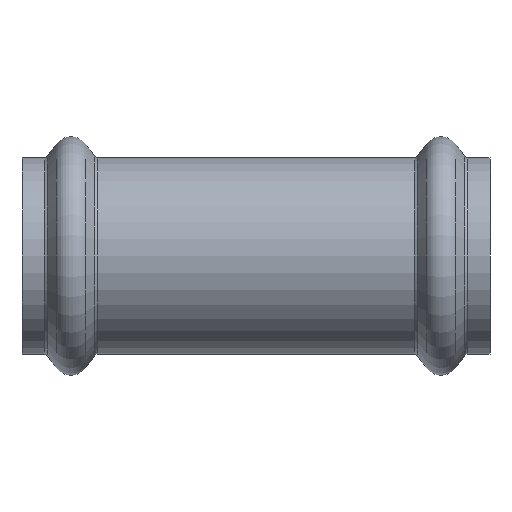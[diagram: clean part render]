
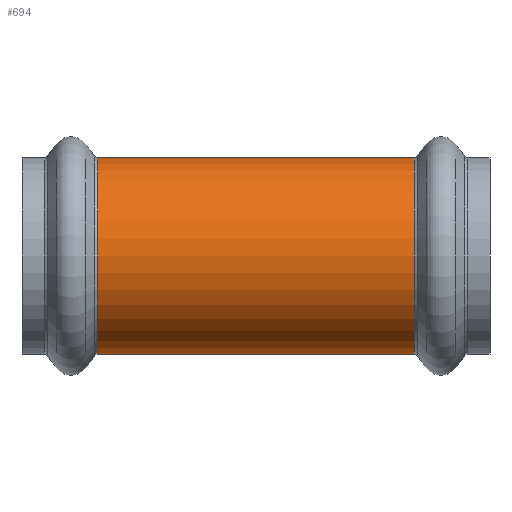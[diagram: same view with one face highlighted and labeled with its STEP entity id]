
A CAD part, front view. The second image highlights one B-rep face of the part: STEP entity #694.
In plain terms, the highlighted cylindrical face has radius 32.931 mm (diameter 65.862 mm), a full revolution.
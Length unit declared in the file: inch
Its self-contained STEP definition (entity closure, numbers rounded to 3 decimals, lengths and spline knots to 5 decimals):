
#51=CYLINDRICAL_SURFACE('',#788,1.2965);
#61=LINE('',#1256,#75);
#75=VECTOR('',#994,1.2965);
#104=FACE_OUTER_BOUND('',#133,.T.);
#133=EDGE_LOOP('',(#525,#526,#527,#528,#529,#530,#531,#532));
#192=CIRCLE('',#785,1.2965);
#193=CIRCLE('',#786,1.2965);
#194=CIRCLE('',#787,1.2965);
#195=CIRCLE('',#789,1.2965);
#196=CIRCLE('',#790,1.2965);
#197=CIRCLE('',#791,1.2965);
#278=VERTEX_POINT('',#1243);
#279=VERTEX_POINT('',#1245);
#280=VERTEX_POINT('',#1247);
#281=VERTEX_POINT('',#1251);
#282=VERTEX_POINT('',#1252);
#283=VERTEX_POINT('',#1254);
#370=EDGE_CURVE('',#279,#278,#192,.T.);
#371=EDGE_CURVE('',#280,#279,#193,.T.);
#372=EDGE_CURVE('',#278,#280,#194,.T.);
#373=EDGE_CURVE('',#281,#282,#195,.T.);
#374=EDGE_CURVE('',#283,#281,#196,.T.);
#375=EDGE_CURVE('',#283,#280,#61,.T.);
#376=EDGE_CURVE('',#282,#283,#197,.T.);
#525=ORIENTED_EDGE('',*,*,#373,.F.);
#526=ORIENTED_EDGE('',*,*,#374,.F.);
#527=ORIENTED_EDGE('',*,*,#375,.T.);
#528=ORIENTED_EDGE('',*,*,#371,.T.);
#529=ORIENTED_EDGE('',*,*,#370,.T.);
#530=ORIENTED_EDGE('',*,*,#372,.T.);
#531=ORIENTED_EDGE('',*,*,#375,.F.);
#532=ORIENTED_EDGE('',*,*,#376,.F.);
#694=ADVANCED_FACE('',(#104),#51,.T.);
#785=AXIS2_PLACEMENT_3D('',#1246,#982,#983);
#786=AXIS2_PLACEMENT_3D('',#1248,#984,#985);
#787=AXIS2_PLACEMENT_3D('',#1249,#986,#987);
#788=AXIS2_PLACEMENT_3D('',#1250,#988,#989);
#789=AXIS2_PLACEMENT_3D('',#1253,#990,#991);
#790=AXIS2_PLACEMENT_3D('',#1255,#992,#993);
#791=AXIS2_PLACEMENT_3D('',#1257,#995,#996);
#982=DIRECTION('center_axis',(1.,0.,0.));
#983=DIRECTION('ref_axis',(0.,1.,0.));
#984=DIRECTION('center_axis',(1.,0.,0.));
#985=DIRECTION('ref_axis',(0.,1.,0.));
#986=DIRECTION('center_axis',(1.,0.,0.));
#987=DIRECTION('ref_axis',(0.,1.,0.));
#988=DIRECTION('center_axis',(1.,0.,0.));
#989=DIRECTION('ref_axis',(0.,1.,0.));
#990=DIRECTION('center_axis',(1.,0.,0.));
#991=DIRECTION('ref_axis',(0.,1.,0.));
#992=DIRECTION('center_axis',(1.,0.,0.));
#993=DIRECTION('ref_axis',(0.,1.,0.));
#994=DIRECTION('',(-1.,0.,0.));
#995=DIRECTION('center_axis',(1.,0.,0.));
#996=DIRECTION('ref_axis',(0.,1.,0.));
#1243=CARTESIAN_POINT('',(-2.08658,0.,1.2965));
#1245=CARTESIAN_POINT('',(-2.08658,1.2965,0.));
#1246=CARTESIAN_POINT('Origin',(-2.08658,0.,0.));
#1247=CARTESIAN_POINT('',(-2.08658,-1.2965,0.));
#1248=CARTESIAN_POINT('Origin',(-2.08658,0.,0.));
#1249=CARTESIAN_POINT('Origin',(-2.08658,0.,0.));
#1250=CARTESIAN_POINT('Origin',(1.04329,0.,0.));
#1251=CARTESIAN_POINT('',(2.08658,1.2965,0.));
#1252=CARTESIAN_POINT('',(2.08658,0.,1.2965));
#1253=CARTESIAN_POINT('Origin',(2.08658,0.,0.));
#1254=CARTESIAN_POINT('',(2.08658,-1.2965,0.));
#1255=CARTESIAN_POINT('Origin',(2.08658,0.,0.));
#1256=CARTESIAN_POINT('',(1.04329,-1.2965,0.));
#1257=CARTESIAN_POINT('Origin',(2.08658,0.,0.));
